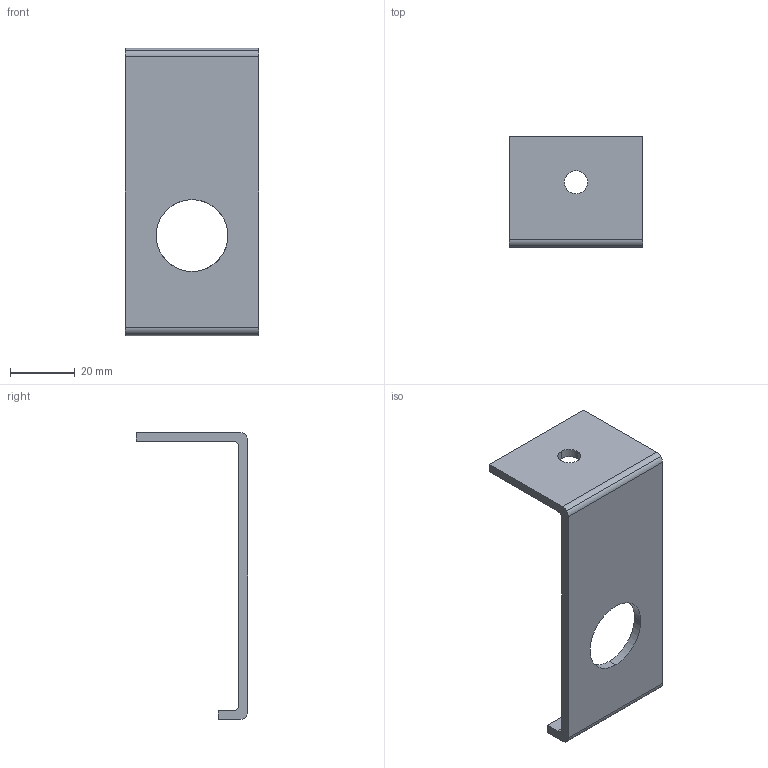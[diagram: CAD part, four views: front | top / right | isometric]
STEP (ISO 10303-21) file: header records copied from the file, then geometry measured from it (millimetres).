
FILE_DESCRIPTION(('TurboCAD Mac Pro'),'Build 980');
FILE_NAME('P5021-50.stp',' ',(''),(''),'ACIS Interop','IMSI','TurboCAD Mac Pro BY IMSI, INCORPORATED');
FILE_SCHEMA(('automotive_design'));
Length unit declared in the file: inch
Products named in the file (1): 1
Bounding box: 41.27 x 34.49 x 88.87 mm (x, y, z)
Volume: 13261.7 mm3; surface area: 10649.5 mm2
Topology: 1 solids, 1 shells, 26 faces, 72 edges, 48 vertices
Faces by surface type: plane 10, cylinder 8, bspline 8
Entity records: 1120 total; most frequent: CARTESIAN_POINT 251, ORIENTED_EDGE 144, DIRECTION 110, EDGE_CURVE 72, VERTEX_POINT 48, LINE 40, VECTOR 40, AXIS2_PLACEMENT_3D 35
